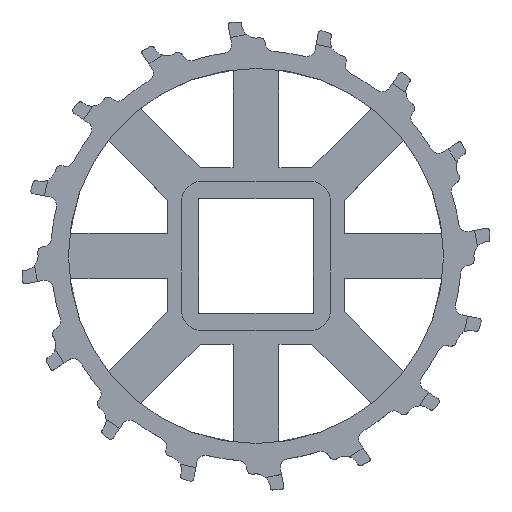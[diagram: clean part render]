
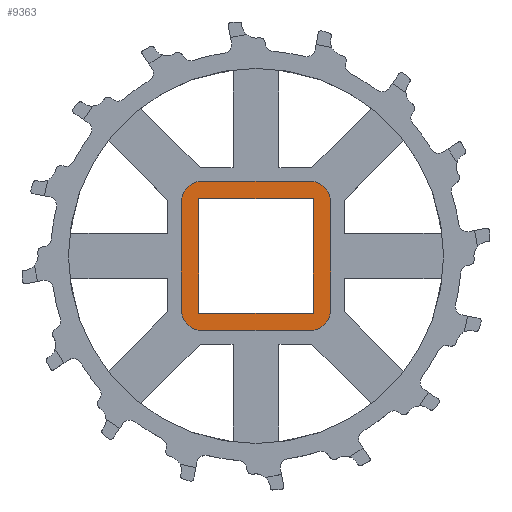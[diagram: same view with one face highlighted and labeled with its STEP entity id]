
A CAD part, top view. The second image highlights one B-rep face of the part: STEP entity #9363.
In plain terms, the highlighted planar face has unit normal (0, 0, 1).
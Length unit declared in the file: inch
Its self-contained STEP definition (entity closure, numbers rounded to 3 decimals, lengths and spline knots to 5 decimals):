
#3532=CARTESIAN_POINT('',(1.185,1.185,1.245));
#3533=DIRECTION('',(0.,0.,1.));
#3534=DIRECTION('',(1.,0.,0.));
#3535=AXIS2_PLACEMENT_3D('',#3532,#3533,#3534);
#3537=DIRECTION('',(0.,1.,0.));
#3538=VECTOR('',#3537,2.37);
#3539=CARTESIAN_POINT('',(1.625,-1.185,1.245));
#3540=LINE('',#3539,#3538);
#3541=CARTESIAN_POINT('',(1.185,-1.185,1.245));
#3542=DIRECTION('',(0.,0.,1.));
#3543=DIRECTION('',(0.,-1.,0.));
#3544=AXIS2_PLACEMENT_3D('',#3541,#3542,#3543);
#3546=DIRECTION('',(1.,0.,0.));
#3547=VECTOR('',#3546,2.37);
#3548=CARTESIAN_POINT('',(-1.185,-1.625,1.245));
#3549=LINE('',#3548,#3547);
#3550=CARTESIAN_POINT('',(-1.185,-1.185,1.245));
#3551=DIRECTION('',(0.,0.,1.));
#3552=DIRECTION('',(-1.,0.,0.));
#3553=AXIS2_PLACEMENT_3D('',#3550,#3551,#3552);
#3555=DIRECTION('',(0.,-1.,0.));
#3556=VECTOR('',#3555,2.37);
#3557=CARTESIAN_POINT('',(-1.625,1.185,1.245));
#3558=LINE('',#3557,#3556);
#3559=CARTESIAN_POINT('',(-1.185,1.185,1.245));
#3560=DIRECTION('',(0.,0.,1.));
#3561=DIRECTION('',(0.,1.,0.));
#3562=AXIS2_PLACEMENT_3D('',#3559,#3560,#3561);
#3564=DIRECTION('',(-1.,0.,0.));
#3565=VECTOR('',#3564,2.37);
#3566=CARTESIAN_POINT('',(1.185,1.625,1.245));
#3567=LINE('',#3566,#3565);
#3568=DIRECTION('',(0.,-1.,0.));
#3569=VECTOR('',#3568,2.5);
#3570=CARTESIAN_POINT('',(-1.25,1.25,1.245));
#3571=LINE('',#3570,#3569);
#3572=DIRECTION('',(1.,0.,0.));
#3573=VECTOR('',#3572,2.5);
#3574=CARTESIAN_POINT('',(-1.25,-1.25,1.245));
#3575=LINE('',#3574,#3573);
#3576=DIRECTION('',(0.,1.,0.));
#3577=VECTOR('',#3576,2.5);
#3578=CARTESIAN_POINT('',(1.25,-1.25,1.245));
#3579=LINE('',#3578,#3577);
#3580=DIRECTION('',(-1.,0.,0.));
#3581=VECTOR('',#3580,2.5);
#3582=CARTESIAN_POINT('',(1.25,1.25,1.245));
#3583=LINE('',#3582,#3581);
#4217=CARTESIAN_POINT('',(-1.25,1.25,1.245));
#4219=VERTEX_POINT('',#4217);
#4221=CARTESIAN_POINT('',(-1.25,-1.25,1.245));
#4223=VERTEX_POINT('',#4221);
#4225=CARTESIAN_POINT('',(1.25,-1.25,1.245));
#4227=VERTEX_POINT('',#4225);
#4229=CARTESIAN_POINT('',(1.25,1.25,1.245));
#4231=VERTEX_POINT('',#4229);
#4713=CARTESIAN_POINT('',(1.625,1.185,1.245));
#4715=VERTEX_POINT('',#4713);
#4717=CARTESIAN_POINT('',(1.185,1.625,1.245));
#4718=VERTEX_POINT('',#4717);
#4737=CARTESIAN_POINT('',(-1.185,1.625,1.245));
#4739=VERTEX_POINT('',#4737);
#4741=CARTESIAN_POINT('',(-1.625,1.185,1.245));
#4742=VERTEX_POINT('',#4741);
#4753=CARTESIAN_POINT('',(-1.625,-1.185,1.245));
#4755=VERTEX_POINT('',#4753);
#4757=CARTESIAN_POINT('',(-1.185,-1.625,1.245));
#4758=VERTEX_POINT('',#4757);
#4761=CARTESIAN_POINT('',(1.185,-1.625,1.245));
#4763=VERTEX_POINT('',#4761);
#4765=CARTESIAN_POINT('',(1.625,-1.185,1.245));
#4766=VERTEX_POINT('',#4765);
#9333=CARTESIAN_POINT('',(0.,0.,1.245));
#9334=DIRECTION('',(0.,0.,1.));
#9335=DIRECTION('',(1.,0.,0.));
#9336=AXIS2_PLACEMENT_3D('',#9333,#9334,#9335);
#9337=PLANE('',#9336);
#9338=ORIENTED_EDGE('',*,*,#9325,.F.);
#9339=ORIENTED_EDGE('',*,*,#9301,.F.);
#9341=ORIENTED_EDGE('',*,*,#9340,.F.);
#9343=ORIENTED_EDGE('',*,*,#9342,.F.);
#9345=ORIENTED_EDGE('',*,*,#9344,.F.);
#9346=ORIENTED_EDGE('',*,*,#9223,.F.);
#9348=ORIENTED_EDGE('',*,*,#9347,.F.);
#9350=ORIENTED_EDGE('',*,*,#9349,.F.);
#9351=EDGE_LOOP('',(#9338,#9339,#9341,#9343,#9345,#9346,#9348,#9350));
#9352=FACE_OUTER_BOUND('',#9351,.F.);
#9354=ORIENTED_EDGE('',*,*,#9353,.T.);
#9356=ORIENTED_EDGE('',*,*,#9355,.T.);
#9358=ORIENTED_EDGE('',*,*,#9357,.T.);
#9360=ORIENTED_EDGE('',*,*,#9359,.T.);
#9361=EDGE_LOOP('',(#9354,#9356,#9358,#9360));
#9362=FACE_BOUND('',#9361,.F.);
#9363=ADVANCED_FACE('',(#9352,#9362),#9337,.T.);
#3536=CIRCLE('',#3535,0.44);
#3545=CIRCLE('',#3544,0.44);
#3554=CIRCLE('',#3553,0.44);
#3563=CIRCLE('',#3562,0.44);
#9223=EDGE_CURVE('',#4742,#4755,#3558,.T.);
#9301=EDGE_CURVE('',#4766,#4715,#3540,.T.);
#9325=EDGE_CURVE('',#4715,#4718,#3536,.T.);
#9340=EDGE_CURVE('',#4763,#4766,#3545,.T.);
#9342=EDGE_CURVE('',#4758,#4763,#3549,.T.);
#9344=EDGE_CURVE('',#4755,#4758,#3554,.T.);
#9347=EDGE_CURVE('',#4739,#4742,#3563,.T.);
#9349=EDGE_CURVE('',#4718,#4739,#3567,.T.);
#9353=EDGE_CURVE('',#4219,#4223,#3571,.T.);
#9355=EDGE_CURVE('',#4223,#4227,#3575,.T.);
#9357=EDGE_CURVE('',#4227,#4231,#3579,.T.);
#9359=EDGE_CURVE('',#4231,#4219,#3583,.T.);
